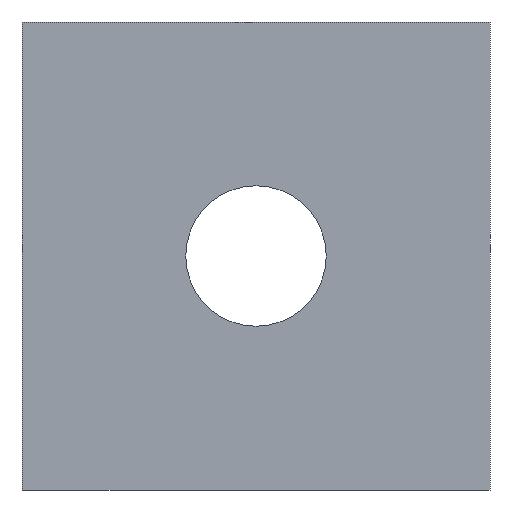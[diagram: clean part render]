
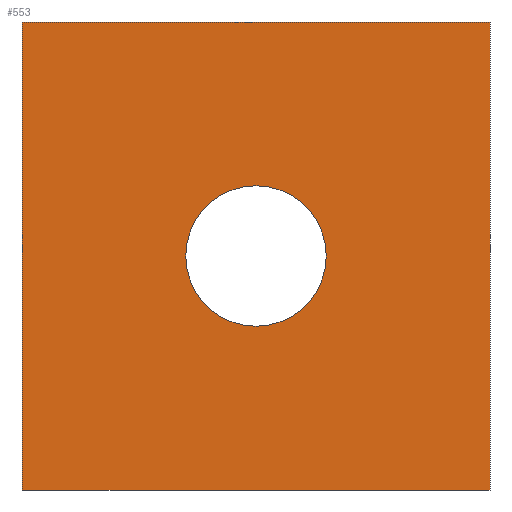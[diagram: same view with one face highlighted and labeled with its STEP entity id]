
A CAD part, left-side view. The second image highlights one B-rep face of the part: STEP entity #553.
In plain terms, the highlighted planar face has unit normal (-1, 0, 0).
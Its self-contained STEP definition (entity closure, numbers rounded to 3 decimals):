
#27=FACE_BOUND('',#103,.T.);
#45=CIRCLE('',#614,3.);
#71=FACE_OUTER_BOUND('',#102,.T.);
#102=EDGE_LOOP('',(#474,#475,#476,#477));
#103=EDGE_LOOP('',(#478));
#158=LINE('',#924,#214);
#162=LINE('',#932,#218);
#163=LINE('',#935,#219);
#164=LINE('',#936,#220);
#214=VECTOR('',#761,10.);
#218=VECTOR('',#769,10.);
#219=VECTOR('',#772,10.);
#220=VECTOR('',#773,10.);
#269=VERTEX_POINT('',#916);
#270=VERTEX_POINT('',#920);
#271=VERTEX_POINT('',#922);
#273=VERTEX_POINT('',#930);
#274=VERTEX_POINT('',#934);
#340=EDGE_CURVE('',#269,#269,#45,.T.);
#344=EDGE_CURVE('',#271,#270,#158,.T.);
#348=EDGE_CURVE('',#271,#273,#162,.T.);
#349=EDGE_CURVE('',#274,#273,#163,.T.);
#350=EDGE_CURVE('',#270,#274,#164,.T.);
#474=ORIENTED_EDGE('',*,*,#348,.T.);
#475=ORIENTED_EDGE('',*,*,#349,.F.);
#476=ORIENTED_EDGE('',*,*,#350,.F.);
#477=ORIENTED_EDGE('',*,*,#344,.F.);
#478=ORIENTED_EDGE('',*,*,#340,.T.);
#524=PLANE('',#618);
#553=ADVANCED_FACE('',(#71,#27),#524,.T.);
#614=AXIS2_PLACEMENT_3D('',#917,#754,#755);
#618=AXIS2_PLACEMENT_3D('',#933,#770,#771);
#754=DIRECTION('center_axis',(1.,0.,0.));
#755=DIRECTION('ref_axis',(0.,0.,1.));
#761=DIRECTION('',(0.,0.,-1.));
#769=DIRECTION('',(0.,1.,0.));
#770=DIRECTION('center_axis',(-1.,0.,0.));
#771=DIRECTION('ref_axis',(0.,0.,1.));
#772=DIRECTION('',(0.,0.,1.));
#773=DIRECTION('',(0.,1.,0.));
#916=CARTESIAN_POINT('',(0.,-7.5,-13.));
#917=CARTESIAN_POINT('Origin',(0.,-7.5,-10.));
#920=CARTESIAN_POINT('',(0.,-17.5,-20.));
#922=CARTESIAN_POINT('',(0.,-17.5,0.));
#924=CARTESIAN_POINT('',(0.,-17.5,-20.));
#930=CARTESIAN_POINT('',(0.,2.5,0.));
#932=CARTESIAN_POINT('',(0.,0.,0.));
#933=CARTESIAN_POINT('Origin',(0.,0.,-20.));
#934=CARTESIAN_POINT('',(0.,2.5,-20.));
#935=CARTESIAN_POINT('',(0.,2.5,-20.));
#936=CARTESIAN_POINT('',(0.,0.,-20.));
